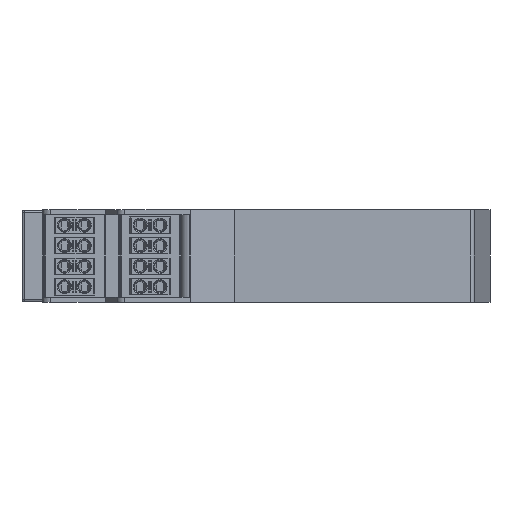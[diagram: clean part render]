
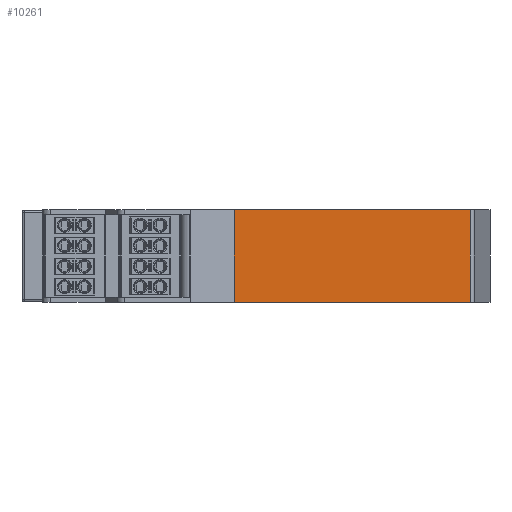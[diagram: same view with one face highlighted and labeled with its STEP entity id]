
A CAD part, left-side view. The second image highlights one B-rep face of the part: STEP entity #10261.
In plain terms, the highlighted planar face has unit normal (-1, 0, 0).
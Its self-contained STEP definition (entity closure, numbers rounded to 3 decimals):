
#10261=ADVANCED_FACE('',(#11984),#10980,.T.);
#10980=PLANE('',#26526);
#11984=FACE_OUTER_BOUND('',#13107,.T.);
#13107=EDGE_LOOP('',(#17100,#17101,#17102,#17103));
#17100=ORIENTED_EDGE('',*,*,#21548,.T.);
#17101=ORIENTED_EDGE('',*,*,#21547,.T.);
#17102=ORIENTED_EDGE('',*,*,#21549,.T.);
#17103=ORIENTED_EDGE('',*,*,#21550,.F.);
#19306=VERTEX_POINT('',#40163);
#19307=VERTEX_POINT('',#40165);
#19308=VERTEX_POINT('',#40169);
#19309=VERTEX_POINT('',#40171);
#21547=EDGE_CURVE('',#19306,#19307,#23281,.T.);
#21548=EDGE_CURVE('',#19308,#19306,#23282,.T.);
#21549=EDGE_CURVE('',#19307,#19309,#23283,.T.);
#21550=EDGE_CURVE('',#19308,#19309,#23284,.T.);
#23281=LINE('',#40166,#24949);
#23282=LINE('',#40168,#24950);
#23283=LINE('',#40170,#24951);
#23284=LINE('',#40172,#24952);
#24949=VECTOR('',#30805,1.);
#24950=VECTOR('',#30808,1.);
#24951=VECTOR('',#30809,1.);
#24952=VECTOR('',#30810,1.);
#26526=AXIS2_PLACEMENT_3D('',#40173,#30811,#30812);
#30805=DIRECTION('',(0.,0.,1.));
#30808=DIRECTION('',(0.,-1.,0.));
#30809=DIRECTION('',(0.,1.,0.));
#30810=DIRECTION('',(0.,0.,1.));
#30811=DIRECTION('',(-1.,0.,0.));
#30812=DIRECTION('',(0.,-1.,0.));
#40163=CARTESIAN_POINT('',(-46.65,4.838,-11.25));
#40165=CARTESIAN_POINT('',(-46.65,4.838,11.25));
#40166=CARTESIAN_POINT('',(-46.65,4.838,-11.25));
#40168=CARTESIAN_POINT('',(-46.65,62.3,-11.25));
#40169=CARTESIAN_POINT('',(-46.65,62.3,-11.25));
#40170=CARTESIAN_POINT('',(-46.65,4.838,11.25));
#40171=CARTESIAN_POINT('',(-46.65,62.3,11.25));
#40172=CARTESIAN_POINT('',(-46.65,62.3,-11.25));
#40173=CARTESIAN_POINT('',(-46.65,62.3,-11.25));
